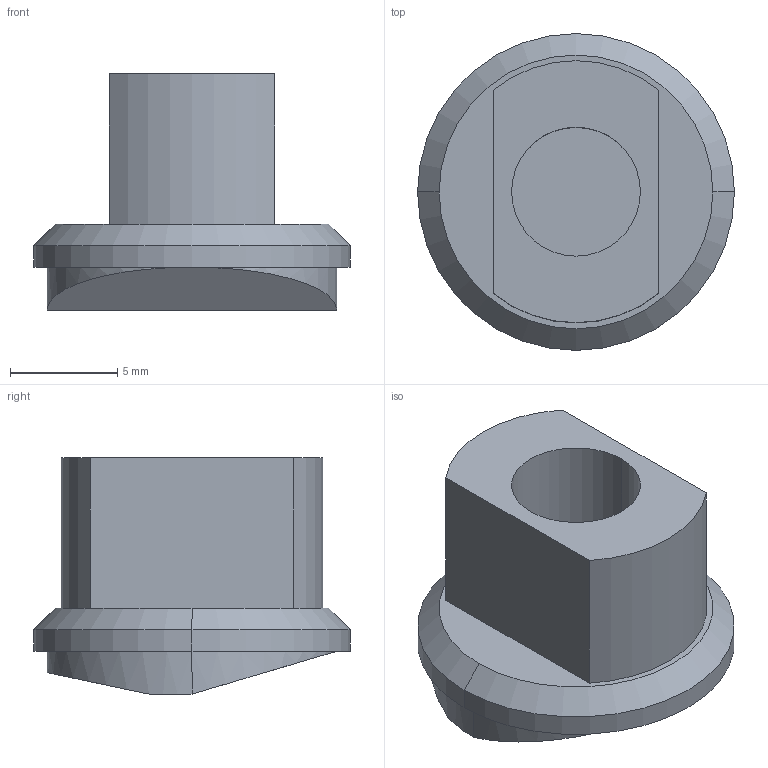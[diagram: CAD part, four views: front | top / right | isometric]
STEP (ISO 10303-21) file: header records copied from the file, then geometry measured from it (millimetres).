
FILE_DESCRIPTION (( 'STEP AP203' ), '1' );
FILE_NAME ('43X 93R stock button mod2.STEP', '2020-12-17T02:58:17', ( '' ), ( '' ), 'SwSTEP 2.0', 'SolidWorks 2016', '' );
FILE_SCHEMA (( 'CONFIG_CONTROL_DESIGN' ));
Length unit declared in the file: millimetre
Products named in the file (1): 43X 93R stock button mod2
Bounding box: 14.75 x 14.75 x 11 mm (x, y, z)
Volume: 967.7 mm3; surface area: 819 mm2
Topology: 1 solids, 1 shells, 20 faces, 40 edges, 25 vertices
Faces by surface type: cylinder 9, plane 9, cone 2
Entity records: 600 total; most frequent: DIRECTION 98, CARTESIAN_POINT 95, ORIENTED_EDGE 80, EDGE_CURVE 40, AXIS2_PLACEMENT_3D 40, VERTEX_POINT 25, EDGE_LOOP 23, FACE_OUTER_BOUND 20
